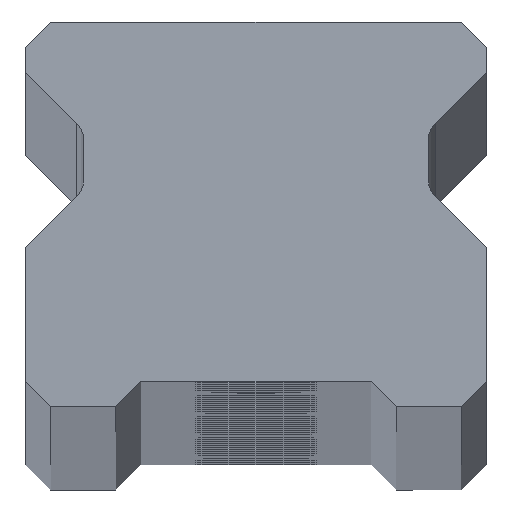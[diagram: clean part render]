
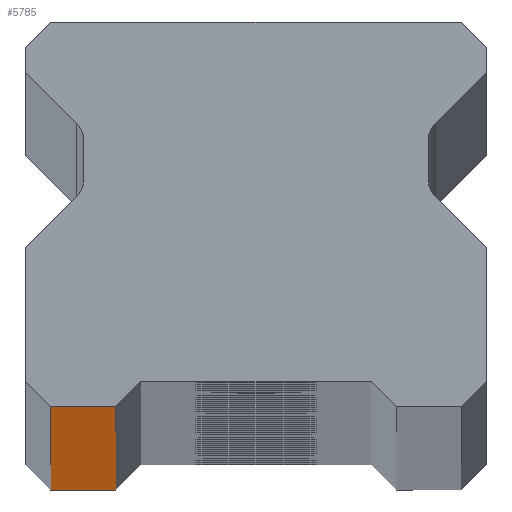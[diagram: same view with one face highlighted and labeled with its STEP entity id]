
A CAD part, top view. The second image highlights one B-rep face of the part: STEP entity #5785.
In plain terms, the highlighted planar face has unit normal (0, -1, 0).
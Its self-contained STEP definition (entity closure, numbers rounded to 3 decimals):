
#123 = EDGE_CURVE ( 'NONE', #1441, #7062, #3627, .T. ) ;
#139 = ORIENTED_EDGE ( 'NONE', *, *, #1909, .F. ) ;
#198 = VECTOR ( 'NONE', #1217, 1000. ) ;
#537 = PLANE ( 'NONE',  #5181 ) ;
#961 = LINE ( 'NONE', #4382, #5858 ) ;
#1006 = CARTESIAN_POINT ( 'NONE',  ( 11.5, 0., 1190. ) ) ;
#1217 = DIRECTION ( 'NONE',  ( 1., 0., 0. ) ) ;
#1441 = VERTEX_POINT ( 'NONE', #4949 ) ;
#1475 = LINE ( 'NONE', #1640, #2987 ) ;
#1532 = EDGE_CURVE ( 'NONE', #1848, #1441, #961, .T. ) ;
#1640 = CARTESIAN_POINT ( 'NONE',  ( -7., 0., -1190. ) ) ;
#1694 = CARTESIAN_POINT ( 'NONE',  ( -7., 0., 1190. ) ) ;
#1774 = CARTESIAN_POINT ( 'NONE',  ( 11.5, 0., 1190. ) ) ;
#1848 = VERTEX_POINT ( 'NONE', #4133 ) ;
#1849 = DIRECTION ( 'NONE',  ( 0., 0., -1. ) ) ;
#1868 = EDGE_CURVE ( 'NONE', #7062, #2777, #1475, .T. ) ;
#1909 = EDGE_CURVE ( 'NONE', #1848, #2777, #4874, .T. ) ;
#2777 = VERTEX_POINT ( 'NONE', #1694 ) ;
#2987 = VECTOR ( 'NONE', #4215, 1000. ) ;
#3502 = FACE_OUTER_BOUND ( 'NONE', #6932, .T. ) ;
#3627 = LINE ( 'NONE', #8153, #198 ) ;
#4133 = CARTESIAN_POINT ( 'NONE',  ( -10.25, 0., 1190. ) ) ;
#4215 = DIRECTION ( 'NONE',  ( 0., 0., 1. ) ) ;
#4269 = DIRECTION ( 'NONE',  ( 1., 0., 0. ) ) ;
#4382 = CARTESIAN_POINT ( 'NONE',  ( -10.25, 0., 1190. ) ) ;
#4874 = LINE ( 'NONE', #1006, #5762 ) ;
#4901 = DIRECTION ( 'NONE',  ( -1., 0., 0. ) ) ;
#4949 = CARTESIAN_POINT ( 'NONE',  ( -10.25, 0., -1190. ) ) ;
#5181 = AXIS2_PLACEMENT_3D ( 'NONE', #1774, #5536, #4901 ) ;
#5536 = DIRECTION ( 'NONE',  ( 0., 1., 0. ) ) ;
#5762 = VECTOR ( 'NONE', #4269, 1000. ) ;
#5785 = ADVANCED_FACE ( 'NONE', ( #3502 ), #537, .F. ) ;
#5858 = VECTOR ( 'NONE', #1849, 1000. ) ;
#5942 = ORIENTED_EDGE ( 'NONE', *, *, #1532, .T. ) ;
#6509 = CARTESIAN_POINT ( 'NONE',  ( -7., 0., -1190. ) ) ;
#6932 = EDGE_LOOP ( 'NONE', ( #7966, #7704, #139, #5942 ) ) ;
#7062 = VERTEX_POINT ( 'NONE', #6509 ) ;
#7704 = ORIENTED_EDGE ( 'NONE', *, *, #1868, .T. ) ;
#7966 = ORIENTED_EDGE ( 'NONE', *, *, #123, .T. ) ;
#8153 = CARTESIAN_POINT ( 'NONE',  ( 11.5, 0., -1190. ) ) ;
